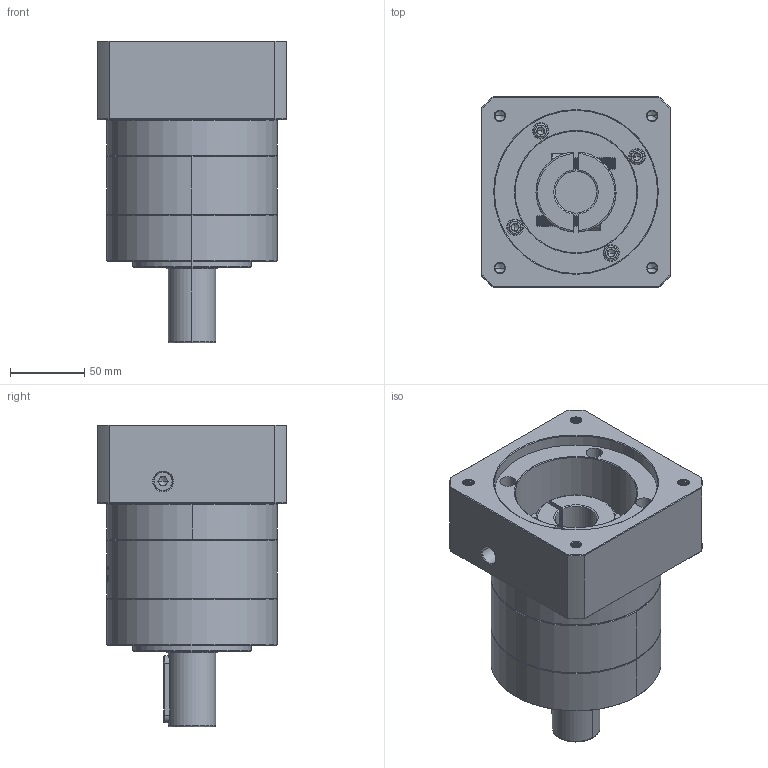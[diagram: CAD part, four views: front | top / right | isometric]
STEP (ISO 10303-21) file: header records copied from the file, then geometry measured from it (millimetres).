
FILE_DESCRIPTION (( 'STEP AP214' ), '1' );
FILE_NAME ('ZE120A-D32-L1-28-110-145-M8.step', '2023-03-09T06:27:57', ( '' ), ( '' ), 'SwSTEP 2.0', 'SolidWorks 2016', '' );
FILE_SCHEMA (( 'AUTOMOTIVE_DESIGN' ));
Length unit declared in the file: millimetre
Products named in the file (1): ZE120A-D32-L1-28-110-145-M8
Bounding box: 128 x 128 x 203.5 mm (x, y, z)
Volume: 1613399.4 mm3; surface area: 176016.1 mm2
Topology: 6 solids, 6 shells, 2023 faces, 5319 edges, 3392 vertices
Faces by surface type: plane 835, cylinder 518, bspline 333, cone 317, torus 20
Entity records: 118011 total; most frequent: CARTESIAN_POINT 50446, ORIENTED_EDGE 10562, DIRECTION 7936, EDGE_CURVE 5281, VERTEX_POINT 3392, LINE 2792, VECTOR 2792, AXIS2_PLACEMENT_3D 2572
